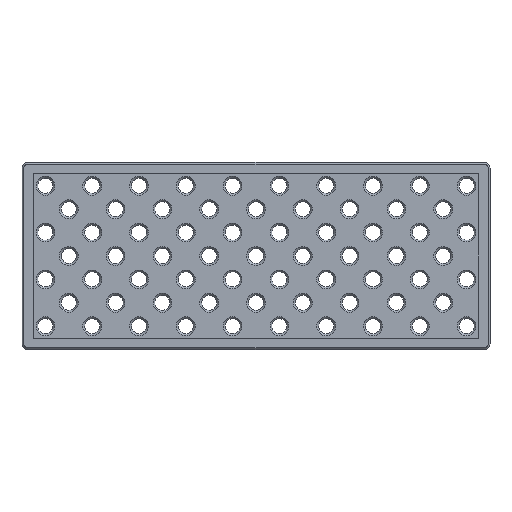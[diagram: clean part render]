
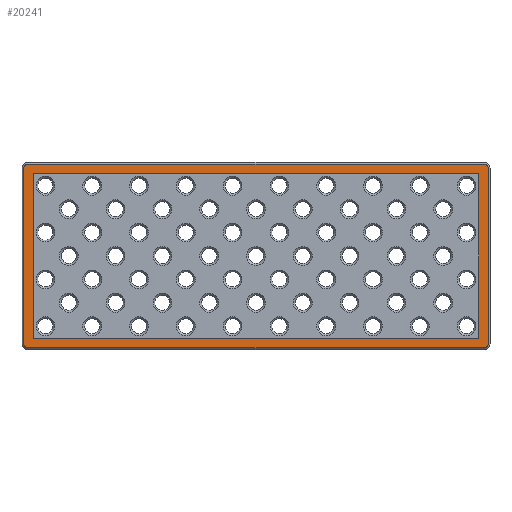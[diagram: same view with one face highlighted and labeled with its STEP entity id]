
A CAD part, front view. The second image highlights one B-rep face of the part: STEP entity #20241.
In plain terms, the highlighted planar face has unit normal (0, -1, 0).
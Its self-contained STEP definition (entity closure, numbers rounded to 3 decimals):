
#102 = CARTESIAN_POINT ( 'NONE',  ( 244., -100., -94. ) ) ;
#160 = CARTESIAN_POINT ( 'NONE',  ( 244., -100., 94. ) ) ;
#873 = VERTEX_POINT ( 'NONE', #16217 ) ;
#1381 = CARTESIAN_POINT ( 'NONE',  ( 0., -100., 98. ) ) ;
#1410 = DIRECTION ( 'NONE',  ( 0., 0., -1. ) ) ;
#1631 = EDGE_CURVE ( 'NONE', #18845, #19938, #18775, .T. ) ;
#1818 = AXIS2_PLACEMENT_3D ( 'NONE', #7855, #22157, #9898 ) ;
#1860 = VECTOR ( 'NONE', #25994, 1000. ) ;
#1974 = CARTESIAN_POINT ( 'NONE',  ( 248., -100., 94. ) ) ;
#2187 = DIRECTION ( 'NONE',  ( 0., 0., 1. ) ) ;
#2199 = FACE_BOUND ( 'NONE', #25019, .T. ) ;
#2229 = DIRECTION ( 'NONE',  ( 0., 0., -1. ) ) ;
#2497 = LINE ( 'NONE', #20001, #1860 ) ;
#3363 = ORIENTED_EDGE ( 'NONE', *, *, #14711, .T. ) ;
#3467 = EDGE_CURVE ( 'NONE', #23323, #12094, #15802, .T. ) ;
#3539 = VERTEX_POINT ( 'NONE', #1974 ) ;
#3557 = CARTESIAN_POINT ( 'NONE',  ( 0., -100., 0. ) ) ;
#3613 = EDGE_CURVE ( 'NONE', #3539, #11293, #7176, .T. ) ;
#3640 = DIRECTION ( 'NONE',  ( 0., 1., 0. ) ) ;
#3647 = VERTEX_POINT ( 'NONE', #18629 ) ;
#4055 = LINE ( 'NONE', #18588, #13607 ) ;
#4353 = DIRECTION ( 'NONE',  ( -1., 0., 0. ) ) ;
#4482 = LINE ( 'NONE', #23828, #9867 ) ;
#5950 = CARTESIAN_POINT ( 'NONE',  ( -248., -100., -94. ) ) ;
#6056 = DIRECTION ( 'NONE',  ( 1., 0., 0. ) ) ;
#6242 = ORIENTED_EDGE ( 'NONE', *, *, #25779, .F. ) ;
#6783 = EDGE_CURVE ( 'NONE', #12094, #3647, #24640, .T. ) ;
#7176 = CIRCLE ( 'NONE', #19567, 4. ) ;
#7318 = CARTESIAN_POINT ( 'NONE',  ( 238., -100., 88. ) ) ;
#7634 = PLANE ( 'NONE',  #12339 ) ;
#7674 = VERTEX_POINT ( 'NONE', #7318 ) ;
#7834 = ORIENTED_EDGE ( 'NONE', *, *, #3467, .T. ) ;
#7835 = ORIENTED_EDGE ( 'NONE', *, *, #13466, .F. ) ;
#7855 = CARTESIAN_POINT ( 'NONE',  ( -244., -100., -94. ) ) ;
#8036 = ORIENTED_EDGE ( 'NONE', *, *, #3613, .T. ) ;
#8247 = LINE ( 'NONE', #9592, #23909 ) ;
#8558 = VECTOR ( 'NONE', #21022, 1000. ) ;
#8784 = EDGE_CURVE ( 'NONE', #7674, #19938, #4055, .T. ) ;
#8828 = CARTESIAN_POINT ( 'NONE',  ( 238., -100., 0. ) ) ;
#9592 = CARTESIAN_POINT ( 'NONE',  ( -238., -100., -88. ) ) ;
#9867 = VECTOR ( 'NONE', #1410, 1000. ) ;
#9898 = DIRECTION ( 'NONE',  ( 0., 0., 1. ) ) ;
#9933 = CIRCLE ( 'NONE', #10457, 4. ) ;
#10300 = CARTESIAN_POINT ( 'NONE',  ( -238., -100., -88. ) ) ;
#10457 = AXIS2_PLACEMENT_3D ( 'NONE', #11417, #25731, #13478 ) ;
#10878 = DIRECTION ( 'NONE',  ( 0., 0., 1. ) ) ;
#11293 = VERTEX_POINT ( 'NONE', #19697 ) ;
#11381 = ORIENTED_EDGE ( 'NONE', *, *, #20200, .T. ) ;
#11417 = CARTESIAN_POINT ( 'NONE',  ( -244., -100., 94. ) ) ;
#12060 = AXIS2_PLACEMENT_3D ( 'NONE', #102, #14409, #2187 ) ;
#12094 = VERTEX_POINT ( 'NONE', #16832 ) ;
#12339 = AXIS2_PLACEMENT_3D ( 'NONE', #3557, #3640, #17882 ) ;
#12791 = CARTESIAN_POINT ( 'NONE',  ( -238., -100., 0. ) ) ;
#13466 = EDGE_CURVE ( 'NONE', #3539, #873, #4482, .T. ) ;
#13478 = DIRECTION ( 'NONE',  ( 0., 0., -1. ) ) ;
#13607 = VECTOR ( 'NONE', #4353, 1000. ) ;
#13679 = LINE ( 'NONE', #1381, #18468 ) ;
#13766 = VECTOR ( 'NONE', #10878, 1000. ) ;
#14409 = DIRECTION ( 'NONE',  ( 0., 1., 0. ) ) ;
#14454 = DIRECTION ( 'NONE',  ( 0., -1., 0. ) ) ;
#14711 = EDGE_CURVE ( 'NONE', #21672, #23323, #2497, .T. ) ;
#15573 = ORIENTED_EDGE ( 'NONE', *, *, #8784, .F. ) ;
#15802 = CIRCLE ( 'NONE', #1818, 4. ) ;
#15985 = VERTEX_POINT ( 'NONE', #17469 ) ;
#16217 = CARTESIAN_POINT ( 'NONE',  ( 248., -100., -94. ) ) ;
#16832 = CARTESIAN_POINT ( 'NONE',  ( -244., -100., -98. ) ) ;
#17330 = EDGE_LOOP ( 'NONE', ( #22408, #3363, #7834, #18784, #18421, #7835, #8036, #18204 ) ) ;
#17469 = CARTESIAN_POINT ( 'NONE',  ( -244., -100., 98. ) ) ;
#17882 = DIRECTION ( 'NONE',  ( 0., 0., 1. ) ) ;
#18204 = ORIENTED_EDGE ( 'NONE', *, *, #20191, .F. ) ;
#18321 = CIRCLE ( 'NONE', #12060, 4. ) ;
#18421 = ORIENTED_EDGE ( 'NONE', *, *, #23387, .F. ) ;
#18468 = VECTOR ( 'NONE', #25861, 1000. ) ;
#18588 = CARTESIAN_POINT ( 'NONE',  ( -238., -100., 88. ) ) ;
#18629 = CARTESIAN_POINT ( 'NONE',  ( 244., -100., -98. ) ) ;
#18775 = LINE ( 'NONE', #12791, #8558 ) ;
#18784 = ORIENTED_EDGE ( 'NONE', *, *, #6783, .T. ) ;
#18845 = VERTEX_POINT ( 'NONE', #10300 ) ;
#19567 = AXIS2_PLACEMENT_3D ( 'NONE', #160, #14454, #2229 ) ;
#19579 = ORIENTED_EDGE ( 'NONE', *, *, #1631, .T. ) ;
#19697 = CARTESIAN_POINT ( 'NONE',  ( 244., -100., 98. ) ) ;
#19938 = VERTEX_POINT ( 'NONE', #20858 ) ;
#20001 = CARTESIAN_POINT ( 'NONE',  ( -248., -100., -94. ) ) ;
#20191 = EDGE_CURVE ( 'NONE', #15985, #11293, #13679, .T. ) ;
#20200 = EDGE_CURVE ( 'NONE', #20779, #18845, #8247, .T. ) ;
#20241 = ADVANCED_FACE ( 'NONE', ( #22647, #2199 ), #7634, .F. ) ;
#20779 = VERTEX_POINT ( 'NONE', #24464 ) ;
#20858 = CARTESIAN_POINT ( 'NONE',  ( -238., -100., 88. ) ) ;
#21022 = DIRECTION ( 'NONE',  ( 0., 0., 1. ) ) ;
#21672 = VERTEX_POINT ( 'NONE', #25495 ) ;
#22157 = DIRECTION ( 'NONE',  ( 0., -1., 0. ) ) ;
#22408 = ORIENTED_EDGE ( 'NONE', *, *, #25969, .F. ) ;
#22647 = FACE_OUTER_BOUND ( 'NONE', #17330, .T. ) ;
#23323 = VERTEX_POINT ( 'NONE', #5950 ) ;
#23362 = VECTOR ( 'NONE', #6056, 1000. ) ;
#23387 = EDGE_CURVE ( 'NONE', #873, #3647, #18321, .T. ) ;
#23828 = CARTESIAN_POINT ( 'NONE',  ( 248., -100., -94. ) ) ;
#23883 = DIRECTION ( 'NONE',  ( -1., 0., 0. ) ) ;
#23909 = VECTOR ( 'NONE', #23883, 1000. ) ;
#24464 = CARTESIAN_POINT ( 'NONE',  ( 238., -100., -88. ) ) ;
#24640 = LINE ( 'NONE', #26499, #23362 ) ;
#24654 = LINE ( 'NONE', #8828, #13766 ) ;
#25019 = EDGE_LOOP ( 'NONE', ( #19579, #15573, #6242, #11381 ) ) ;
#25495 = CARTESIAN_POINT ( 'NONE',  ( -248., -100., 94. ) ) ;
#25731 = DIRECTION ( 'NONE',  ( 0., 1., 0. ) ) ;
#25779 = EDGE_CURVE ( 'NONE', #20779, #7674, #24654, .T. ) ;
#25861 = DIRECTION ( 'NONE',  ( 1., 0., 0. ) ) ;
#25969 = EDGE_CURVE ( 'NONE', #21672, #15985, #9933, .T. ) ;
#25994 = DIRECTION ( 'NONE',  ( 0., 0., -1. ) ) ;
#26499 = CARTESIAN_POINT ( 'NONE',  ( 0., -100., -98. ) ) ;
